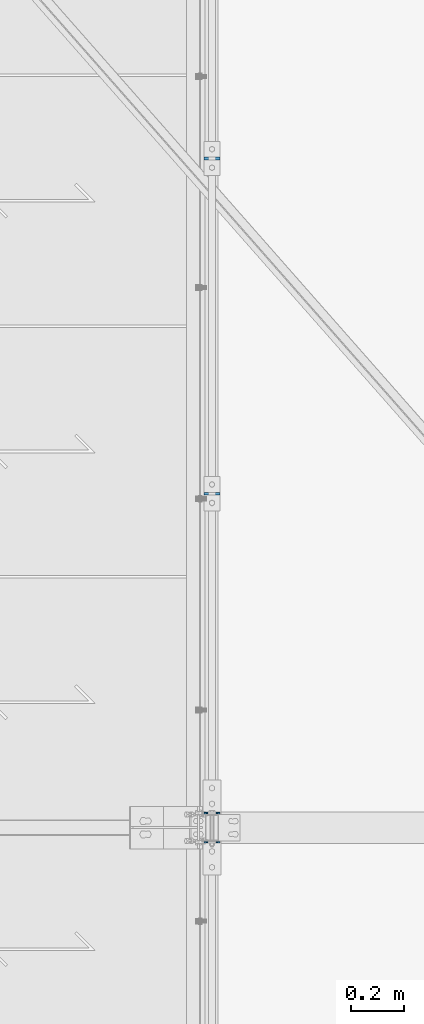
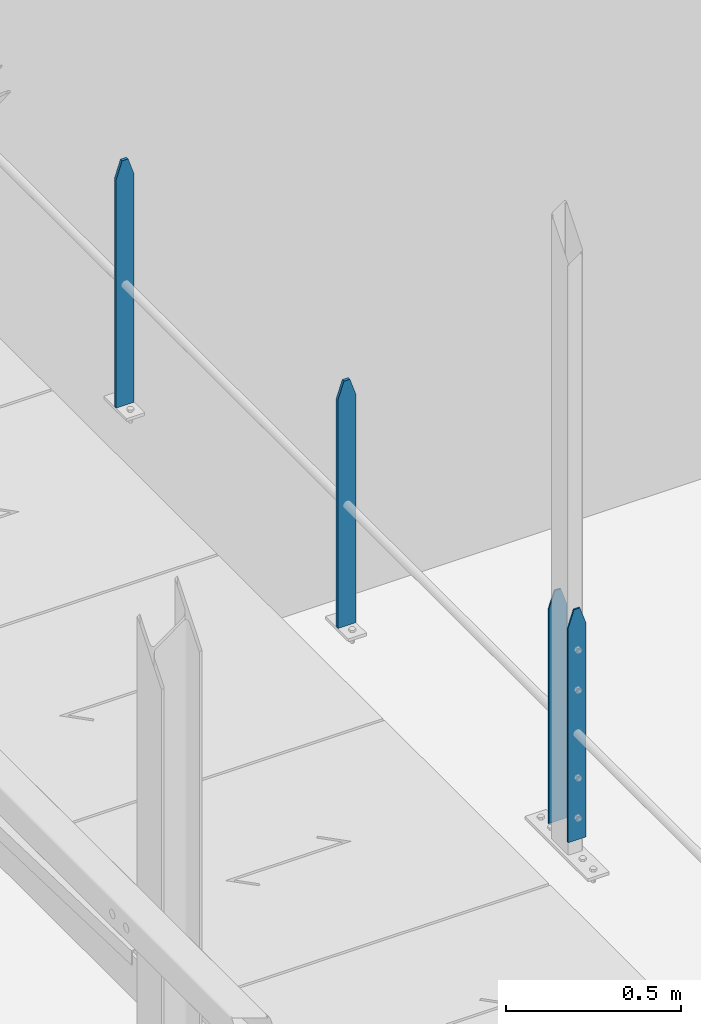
# One storey, part 22 of 362: 4 columns, 2 elements without a shape of their own.
"""IFC2X3 building model written with IfcOpenShell, lengths in millimetres."""

import ifcopenshell
import ifcopenshell.guid

model = None  # the IFC model being written
_history = None  # IfcOwnerHistory: only IFC2X3 demands one
_inside = {}  # id of a spatial element -> (the spatial element, [elements in it])
_under = {}  # id of a project, library or spatial element -> (it, [spatial elements below it])
_declared = {}  # id of a project -> (the project, [libraries it declares])
_typed = {}  # id of a type object -> (the type object, [elements of that type])
_made_of = {}  # id of a material, layer set ... -> (it, [elements and type objects made of it])


def new_model(schema):
    """Start an empty IFC model of exactly this schema.

    Asked for "IFC4X3", IfcOpenShell would pick the latest addendum, in which some entities
    have other attributes; the version numbers below select the first issue.
    IFC2X3 requires an IfcOwnerHistory on every rooted entity: one is made here for all.
    """
    global model, _history
    if schema == "IFC4X3":
        model = ifcopenshell.file(schema_version=(4, 3, 0, 0))
    else:
        model = ifcopenshell.file(schema=schema)
    _inside.clear()
    _under.clear()
    _declared.clear()
    _typed.clear()
    _made_of.clear()
    _history = None
    if model.schema == "IFC2X3":
        org = make("IfcOrganization", Name="unknown")
        user = make(
            "IfcPersonAndOrganization",
            ThePerson=make("IfcPerson", FamilyName="unknown"),
            TheOrganization=org,
        )
        app = make(
            "IfcApplication",
            ApplicationDeveloper=org,
            Version="unknown",
            ApplicationFullName="unknown",
            ApplicationIdentifier="unknown",
        )
        _history = make(
            "IfcOwnerHistory",
            OwningUser=user,
            OwningApplication=app,
            ChangeAction="ADDED",
            CreationDate=0,
        )
    return model


def make(cls, **values):
    """One entity of the class cls with the attributes given. An attribute that is None is left unset."""
    return model.create_entity(
        cls, **{name: value for name, value in values.items() if value is not None}
    )


def rooted(cls, **values):
    """An entity with a GlobalId (a new one), such as an element, a storey or a relation."""
    return make(cls, GlobalId=ifcopenshell.guid.new(), OwnerHistory=_history, **values)


def si_unit(unit_type, name, prefix=None):
    """IfcSIUnit, for example si_unit("LENGTHUNIT", "METRE", prefix="MILLI")."""
    return make("IfcSIUnit", UnitType=unit_type, Prefix=prefix, Name=name)


def assignment(units):
    """IfcUnitAssignment: the units of a project."""
    return None if units is None else make("IfcUnitAssignment", Units=units)


def point(xyz):
    """IfcCartesianPoint."""
    return None if xyz is None else make("IfcCartesianPoint", Coordinates=xyz)


def direction(xyz):
    """IfcDirection."""
    return None if xyz is None else make("IfcDirection", DirectionRatios=xyz)


def frame(location, z_axis=None, x_axis=None):
    """IfcAxis2Placement3D, a coordinate frame: its origin and axes. An axis left out is left unset."""
    return make(
        "IfcAxis2Placement3D",
        Location=point(location),
        Axis=direction(z_axis),
        RefDirection=direction(x_axis),
    )


def frame_2d(location, x_axis=None):
    """IfcAxis2Placement2D, a coordinate frame in the plane: its origin and x axis."""
    return make(
        "IfcAxis2Placement2D", Location=point(location), RefDirection=direction(x_axis)
    )


def origin_with_axes():
    """The frame at (0, 0, 0) with the z axis (0, 0, 1) and the x axis (1, 0, 0) written out."""
    return frame((0.0, 0.0, 0.0), z_axis=(0.0, 0.0, 1.0), x_axis=(1.0, 0.0, 0.0))


def origin_2d_with_axis():
    """The frame at (0, 0) in the plane with the x axis (1, 0) written out."""
    return frame_2d((0.0, 0.0), x_axis=(1.0, 0.0))


def place(relative_to, where):
    """IfcLocalPlacement: puts the frame where relative to a parent placement (None: the world)."""
    return make(
        "IfcLocalPlacement", PlacementRelTo=relative_to, RelativePlacement=where
    )


def context(
    kind, dimensions, precision=None, world=None, true_north=None, identifier=None
):
    """IfcGeometricRepresentationContext, for example the 3D "Model" context."""
    return make(
        "IfcGeometricRepresentationContext",
        ContextIdentifier=identifier,
        ContextType=kind,
        CoordinateSpaceDimension=dimensions,
        Precision=precision,
        WorldCoordinateSystem=world,
        TrueNorth=true_north,
    )


def subcontext(parent, identifier, kind, view, scale=None):
    """IfcGeometricRepresentationSubContext, for example "Body" below "Model"."""
    return make(
        "IfcGeometricRepresentationSubContext",
        ContextIdentifier=identifier,
        ContextType=kind,
        ParentContext=parent,
        TargetScale=scale,
        TargetView=view,
    )


def project(units=None, contexts=None):
    """IfcProject with its units and contexts."""
    return rooted(
        "IfcProject",
        Name="project",
        RepresentationContexts=contexts,
        UnitsInContext=assignment(units),
    )


def spatial(cls, under=None, at=None, **own):
    """A site, building, storey or space (cls), placed at a placement, below another one or the project."""
    s = rooted(cls, ObjectPlacement=at, **own)
    if under is not None:
        _under.setdefault(under.id(), (under, []))[1].append(s)
    return s


def profile(cls, at=None, kind="AREA", **sizes):
    """A parametric profile (cls). Its sizes go by their IFC names, for example OverallWidth=200.0."""
    return make(cls, ProfileType=kind, Position=at, **sizes)


def rectangle(**sizes):
    """IfcRectangleProfileDef."""
    return profile("IfcRectangleProfileDef", **sizes)


def extrude(swept, where, along, depth):
    """IfcExtrudedAreaSolid: the profile swept, set in the frame where, extruded along a direction by depth."""
    return make(
        "IfcExtrudedAreaSolid",
        SweptArea=swept,
        Position=where,
        ExtrudedDirection=direction(along),
        Depth=depth,
    )


def clip(a, b, op="DIFFERENCE"):
    """IfcBooleanClippingResult: the solid a cut by the half space b."""
    return make(
        "IfcBooleanClippingResult", Operator=op, FirstOperand=a, SecondOperand=b
    )


def halfspace(plane, agree):
    """IfcHalfSpaceSolid: all space on one side of the plane z = 0 of the frame plane."""
    return make(
        "IfcHalfSpaceSolid",
        BaseSurface=make("IfcPlane", Position=plane),
        AgreementFlag=agree,
    )


def shape(context_of_items, identifier, shape_type, items):
    """IfcShapeRepresentation: the items that make up one representation, for example the "Body"."""
    return make(
        "IfcShapeRepresentation",
        ContextOfItems=context_of_items,
        RepresentationIdentifier=identifier,
        RepresentationType=shape_type,
        Items=items,
    )


def material(Name=None, Category=None):
    """IfcMaterial."""
    return make("IfcMaterial", Name=Name, Category=Category)


def made_of(thing, what):
    """Note that an element or type object is made of a material, layer set ...; save() writes the relation."""
    if what is not None:
        _made_of.setdefault(what.id(), (what, []))[1].append(thing)
    return thing


def type_object(cls, material=None, **own):
    """A type object (cls), such as IfcWallType, which elements share."""
    return made_of(rooted(cls, **own), material)


def element(
    cls,
    number,
    at=None,
    inside=None,
    cuts=None,
    type_object=None,
    material=None,
    context=None,
    identifier="Body",
    shape_type=None,
    held_by="IfcProductDefinitionShape",
    body=None,
    shapes=None,
    **own,
):
    """One element of the class cls, such as IfcWall. Its Tag is "e" and its number.

    at: its placement. inside: the storey or other place that contains it. cuts: it is an
    opening in that element (IfcRelVoidsElement). A single representation is given by context,
    identifier, shape_type and body (its items); several are given by shapes. held_by: the class
    of the entity that holds the representations. save() writes the other relations.
    """
    e = rooted(cls, Tag="e%d" % number, ObjectPlacement=at, **own)
    if body is not None:
        shapes = [shape(context, identifier, shape_type, body)]
    if shapes is not None:
        e.Representation = make(held_by, Representations=shapes)
    if inside is not None:
        _inside.setdefault(inside.id(), (inside, []))[1].append(e)
    if cuts is not None:
        rooted(
            "IfcRelVoidsElement", RelatingBuildingElement=cuts, RelatedOpeningElement=e
        )
    if type_object is not None:
        _typed.setdefault(type_object.id(), (type_object, []))[1].append(e)
    return made_of(e, material)


def aggregate(whole, parts):
    """IfcRelAggregates: a whole, such as a stair, and the parts it consists of."""
    return rooted("IfcRelAggregates", RelatingObject=whole, RelatedObjects=parts)


def save(model, path):
    """Write the relations noted so far, then the file.

    IfcRelAggregates (storeys below a building ...), IfcRelContainedInSpatialStructure (elements
    in a storey), IfcRelDefinesByType, IfcRelAssociatesMaterial and IfcRelDeclares: one each for
    every whole, place, type object, material and project.
    """
    for whole, parts in _under.values():
        aggregate(whole, parts)
    for where, things in _inside.values():
        rooted(
            "IfcRelContainedInSpatialStructure",
            RelatedElements=things,
            RelatingStructure=where,
        )
    for kind, things in _typed.values():
        rooted("IfcRelDefinesByType", RelatedObjects=things, RelatingType=kind)
    for what, things in _made_of.values():
        rooted("IfcRelAssociatesMaterial", RelatedObjects=things, RelatingMaterial=what)
    for by, libraries in _declared.values():
        rooted("IfcRelDeclares", RelatingContext=by, RelatedDefinitions=libraries)
    model.write(path)


model = new_model("IFC2X3")

# Units and contexts
model_context = context("Model", 3, precision=1e-05, world=origin_with_axes())
body_context = subcontext(model_context, "Body", "Model", "MODEL_VIEW")
ifc_project = project(units=[si_unit("LENGTHUNIT", "METRE", prefix="MILLI"), si_unit("AREAUNIT", "SQUARE_METRE"), si_unit("VOLUMEUNIT", "CUBIC_METRE"), si_unit("MASSUNIT", "GRAM", prefix="KILO"), si_unit("TIMEUNIT", "SECOND"), si_unit("PLANEANGLEUNIT", "RADIAN"), si_unit("SOLIDANGLEUNIT", "STERADIAN"), si_unit("THERMODYNAMICTEMPERATUREUNIT", "DEGREE_CELSIUS"), si_unit("LUMINOUSINTENSITYUNIT", "LUMEN")], contexts=[model_context])

# Site, building, storey
site_placement = place(None, origin_with_axes())
site = spatial("IfcSite", under=ifc_project, at=site_placement, Name="Undefined", CompositionType="ELEMENT")
building_placement = place(site_placement, origin_with_axes())
building = spatial("IfcBuilding", under=site, at=building_placement, Name="Undefined", CompositionType="ELEMENT")
storey_placement = place(building_placement, origin_with_axes())
storey = spatial("IfcBuildingStorey", under=building, at=storey_placement, Name="Undefined", CompositionType="ELEMENT", Elevation=0.0)

# Assembly, columns
assembly_1_placement = place(storey_placement, origin_with_axes())
assembly_1 = element("IfcElementAssembly", 1, at=assembly_1_placement, inside=storey, Name="MAIN COURANTE", AssemblyPlace="NOTDEFINED", PredefinedType="NOTDEFINED")
ifc_material = material(Name="Undefined/S235-E24")
column_type_1 = type_object("IfcColumnType", Name="PL10*60", PredefinedType="NOTDEFINED")
column_1_placement = place(assembly_1_placement, frame((13993.9998862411, 5065.00344717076, 8250.00000552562), z_axis=(0.0, 0.0, 1.0), x_axis=(1.0, 0.0, 0.0)))
column_1 = element("IfcColumn", 2, at=column_1_placement, type_object=column_type_1, material=ifc_material, Name="MONTANT", ObjectType="PL10*60", context=body_context, shape_type="Clipping", body=[
    clip(clip(extrude(rectangle(XDim=10.0, YDim=60.0, at=origin_2d_with_axis()), frame((0.0, 0.0, 857.599997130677), z_axis=(0.0, 0.0, -1.0), x_axis=(0.0, 1.0, 0.0)), (0.0, 0.0, 1.0), 857.6), halfspace(frame((30.0000001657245, -5.000000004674, 797.599997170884), z_axis=(0.948683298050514, 0.0, 0.316227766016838), x_axis=(-0.316227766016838, 0.0, 0.948683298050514)), False)), halfspace(frame((-29.9999998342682, 4.99999999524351, 797.599997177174), z_axis=(-0.948683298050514, 0.0, 0.316227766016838), x_axis=(0.316227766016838, 0.0, 0.948683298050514)), False)),
])
column_2_placement = place(assembly_1_placement, frame((13993.9998872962, 6335.00344717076, 8250.00000465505), z_axis=(0.0, 0.0, 1.0), x_axis=(1.0, 0.0, 0.0)))
column_2 = element("IfcColumn", 3, at=column_2_placement, type_object=column_type_1, material=ifc_material, Name="MONTANT", ObjectType="PL10*60", context=body_context, shape_type="Clipping", body=[
    clip(clip(extrude(rectangle(XDim=10.0, YDim=60.0, at=origin_2d_with_axis()), frame((0.0, 0.0, 857.599997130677), z_axis=(0.0, 0.0, -1.0), x_axis=(0.0, 1.0, 0.0)), (0.0, 0.0, 1.0), 857.6), halfspace(frame((30.0000001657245, -5.000000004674, 797.599997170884), z_axis=(0.948683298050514, 0.0, 0.316227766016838), x_axis=(-0.316227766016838, 0.0, 0.948683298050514)), False)), halfspace(frame((-29.9999998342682, 4.99999999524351, 797.599997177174), z_axis=(-0.948683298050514, 0.0, 0.316227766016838), x_axis=(0.316227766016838, 0.0, 0.948683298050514)), False)),
])

# Assembly, column
assembly_2_placement = place(storey_placement, origin_with_axes())
assembly_2 = element("IfcElementAssembly", 4, at=assembly_2_placement, inside=storey, Name="MAIN COURANTE", AssemblyPlace="NOTDEFINED", PredefinedType="NOTDEFINED")
column_type_2 = type_object("IfcColumnType", Name="PL5*60", PredefinedType="NOTDEFINED")
column_3_placement = place(assembly_2_placement, frame((13993.9998855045, 3745.00000892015, 8300.00000650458), z_axis=(0.0, 0.0, 1.0), x_axis=(1.0, 0.0, 0.0)))
column_3 = element("IfcColumn", 5, at=column_3_placement, type_object=column_type_2, material=ifc_material, Name="MONTANT", ObjectType="PL5*60", context=body_context, shape_type="Clipping", body=[
    clip(clip(extrude(rectangle(XDim=5.0, YDim=60.0, at=origin_2d_with_axis()), frame((0.0, 0.0, 807.599997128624), z_axis=(0.0, 0.0, -1.0), x_axis=(0.0, 1.0, 0.0)), (0.0, 0.0, 1.0), 807.6), halfspace(frame((29.9999999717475, -5.00000000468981, 747.599997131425), z_axis=(0.948683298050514, 0.0, 0.316227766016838), x_axis=(-0.316227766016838, 0.0, 0.948683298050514)), False)), halfspace(frame((-30.000000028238, 4.99999999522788, 747.599997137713), z_axis=(-0.948683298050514, 0.0, 0.316227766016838), x_axis=(0.316227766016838, 0.0, 0.948683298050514)), False)),
])
aggregate(assembly_2, [column_3])

# Column
column_4_placement = place(assembly_1_placement, frame((13993.9998855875, 3855.00000891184, 8300.00000642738), z_axis=(0.0, 0.0, 1.0), x_axis=(1.0, 0.0, 0.0)))
column_4 = element("IfcColumn", 6, at=column_4_placement, type_object=column_type_2, material=ifc_material, Name="MONTANT", ObjectType="PL5*60", context=body_context, shape_type="Clipping", body=[
    clip(clip(extrude(rectangle(XDim=5.0, YDim=60.0, at=origin_2d_with_axis()), frame((0.0, 0.0, 807.599997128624), z_axis=(0.0, 0.0, -1.0), x_axis=(0.0, 1.0, 0.0)), (0.0, 0.0, 1.0), 807.6), halfspace(frame((29.9999999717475, -5.00000000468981, 747.599997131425), z_axis=(0.948683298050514, 0.0, 0.316227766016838), x_axis=(-0.316227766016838, 0.0, 0.948683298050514)), False)), halfspace(frame((-30.000000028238, 4.99999999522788, 747.599997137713), z_axis=(-0.948683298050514, 0.0, 0.316227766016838), x_axis=(0.316227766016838, 0.0, 0.948683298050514)), False)),
])

aggregate(assembly_1, [column_4, column_1, column_2])

save(model, "model.ifc")
